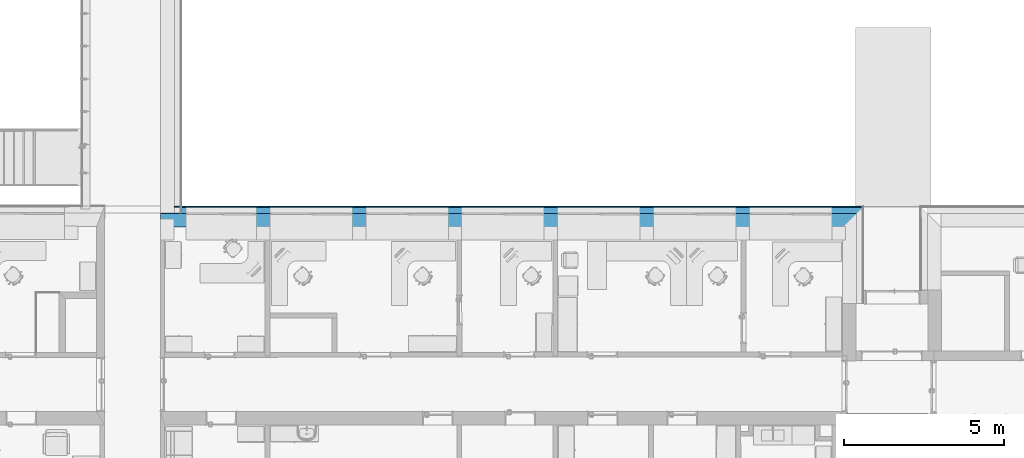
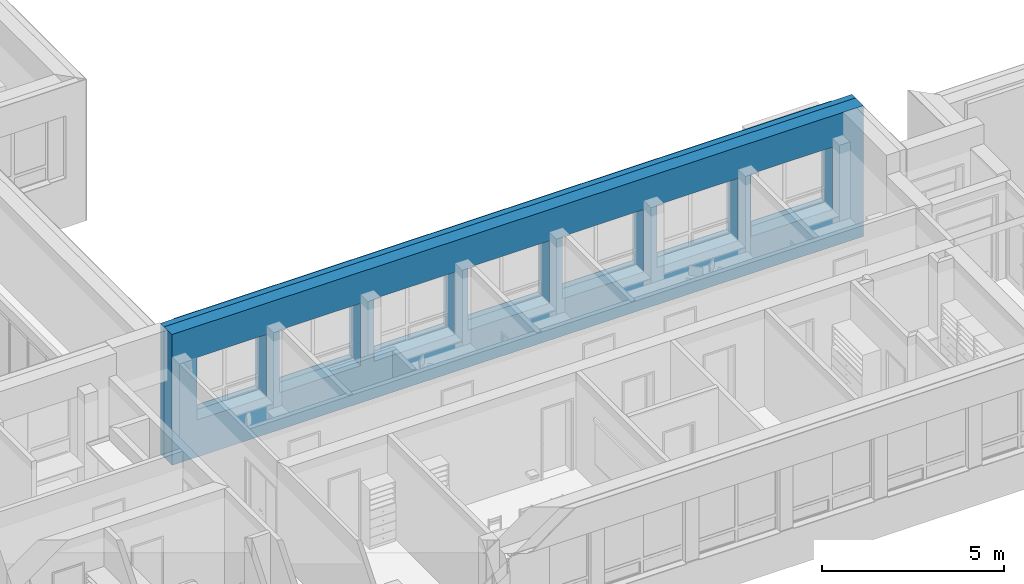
# One storey, part 93 of 194: 3 building element parts, 7 openings, 1 element without a shape of its own.
"""IFC2X3 building model written with IfcOpenShell, lengths in millimetres."""

from ifc_helpers import new_model, entity, si_unit, converted_unit, derived_unit, money_unit, direction, frame, origin_with_axes, origin_2d_with_axis, place, context, subcontext, project, spatial, polyline, rectangle, outline, extrude, boolean, faceted_brep, material, type_object, element, aggregate, save


model = new_model("IFC2X3")

# Units and contexts
model_context = context("Model", 3, precision=1e-05, world=origin_with_axes(), true_north=direction((0.0, 1.0)))
body_context = subcontext(model_context, "Body", "Model", "MODEL_VIEW")
ifc_project = project(units=[si_unit("LENGTHUNIT", "METRE", prefix="MILLI"), si_unit("AREAUNIT", "SQUARE_METRE"), si_unit("VOLUMEUNIT", "CUBIC_METRE"), converted_unit("PLANEANGLEUNIT", "DEGREE", entity("IfcPlaneAngleMeasure", 0.0174532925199), si_unit("PLANEANGLEUNIT", "RADIAN"), dimensions=[0, 0, 0, 0, 0, 0, 0]), si_unit("SOLIDANGLEUNIT", "STERADIAN"), money_unit("EUR"), converted_unit("TIMEUNIT", "Year", entity("IfcTimeMeasure", 31556926.0), si_unit("TIMEUNIT", "SECOND"), dimensions=[0, 0, 1, 0, 0, 0, 0]), si_unit("MASSUNIT", "GRAM", prefix="KILO"), si_unit("THERMODYNAMICTEMPERATUREUNIT", "DEGREE_CELSIUS"), si_unit("LUMINOUSINTENSITYUNIT", "LUMEN"), si_unit("ENERGYUNIT", "JOULE", prefix="MEGA"), derived_unit("THERMALCONDUCTANCEUNIT", [(si_unit("POWERUNIT", "WATT"), 1), (si_unit("LENGTHUNIT", "METRE"), -1), (si_unit("THERMODYNAMICTEMPERATUREUNIT", "KELVIN"), -1)]), derived_unit("SPECIFICHEATCAPACITYUNIT", [(si_unit("ENERGYUNIT", "JOULE"), 1), (si_unit("MASSUNIT", "GRAM", prefix="KILO"), -1), (si_unit("THERMODYNAMICTEMPERATUREUNIT", "KELVIN"), -1)]), derived_unit("MASSDENSITYUNIT", [(si_unit("MASSUNIT", "GRAM", prefix="KILO"), 1), (si_unit("VOLUMEUNIT", "CUBIC_METRE"), -1)])], contexts=[model_context])

# Site, building, storey
site_placement = place(None, origin_with_axes())
site = spatial("IfcSite", under=ifc_project, at=site_placement, Name="Site", CompositionType="ELEMENT")
building_placement = place(site_placement, origin_with_axes())
building = spatial("IfcBuilding", under=site, at=building_placement, Name="Building", CompositionType="ELEMENT")
storey_placement = place(building_placement, frame((0.0, 0.0, 3000.0), z_axis=(0.0, 0.0, 1.0), x_axis=(1.0, 0.0, 0.0)))
storey = spatial("IfcBuildingStorey", under=building, at=storey_placement, Name="2 KORRUS", CompositionType="ELEMENT", Elevation=3000.0)

# Wall, openings, building element parts
wall_type = type_object("IfcWallType", Name="VS4", PredefinedType="NOTDEFINED")
wall_placement = place(storey_placement, frame((40164.293115, 47302.325893, -400.0), z_axis=(0.0, 0.0, 1.0), x_axis=(1.0, 0.0, 0.0)))
wall = element("IfcWall", 1, at=wall_placement, inside=storey, type_object=wall_type, Name="VS4")
opening_1_placement = place(wall_placement, frame((1468.95155742, 0.0, 1250.0), z_axis=(0.0, 0.0, 1.0), x_axis=(1.0, 0.0, 0.0)))
element("IfcOpeningElement", 2, at=opening_1_placement, cuts=wall, Name="välisaken * Double Window 22", context=body_context, shape_type="SweptSolid", body=[
    extrude(rectangle(XDim=2200.0, YDim=2100.0, at=origin_2d_with_axis()), frame((0.0, 19.9999999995, 1050.0), z_axis=(0.0, -1.0, 0.0), x_axis=(1.0, 0.0, 0.0)), (0.0, 0.0, 1.0), 1100.0),
    extrude(rectangle(XDim=2200.0, YDim=2100.0, at=origin_2d_with_axis()), frame((0.0, 19.9999999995, 1050.0), z_axis=(0.0, 1.0, 0.0), x_axis=(1.0, 0.0, 0.0)), (0.0, 0.0, 1.0), 850.0),
])
opening_2_placement = place(wall_placement, frame((4279.26923965, 0.0, 1250.0), z_axis=(0.0, 0.0, 1.0), x_axis=(1.0, 0.0, 0.0)))
element("IfcOpeningElement", 3, at=opening_2_placement, cuts=wall, Name="välisaken * Double Window 22", context=body_context, shape_type="SweptSolid", body=[
    extrude(rectangle(XDim=2580.0, YDim=2100.0, at=origin_2d_with_axis()), frame((0.0, 19.9999999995, 1050.0), z_axis=(0.0, -1.0, 0.0), x_axis=(1.0, 0.0, 0.0)), (0.0, 0.0, 1.0), 1100.0),
    extrude(rectangle(XDim=2580.0, YDim=2100.0, at=origin_2d_with_axis()), frame((0.0, 19.9999999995, 1050.0), z_axis=(0.0, 1.0, 0.0), x_axis=(1.0, 0.0, 0.0)), (0.0, 0.0, 1.0), 850.0),
])
opening_3_placement = place(wall_placement, frame((7280.54937321, 0.0, 1250.0), z_axis=(0.0, 0.0, 1.0), x_axis=(1.0, 0.0, 0.0)))
element("IfcOpeningElement", 4, at=opening_3_placement, cuts=wall, Name="välisaken * Double Window 22", context=body_context, shape_type="SweptSolid", body=[
    extrude(rectangle(XDim=2580.0, YDim=2100.0, at=origin_2d_with_axis()), frame((0.0, 19.9999999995, 1050.0), z_axis=(0.0, -1.0, 0.0), x_axis=(1.0, 0.0, 0.0)), (0.0, 0.0, 1.0), 1100.0),
    extrude(rectangle(XDim=2580.0, YDim=2100.0, at=origin_2d_with_axis()), frame((0.0, 19.9999999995, 1050.0), z_axis=(0.0, 1.0, 0.0), x_axis=(1.0, 0.0, 0.0)), (0.0, 0.0, 1.0), 850.0),
])
opening_4_placement = place(wall_placement, frame((10279.0781355, 0.0, 1250.0), z_axis=(0.0, 0.0, 1.0), x_axis=(1.0, 0.0, 0.0)))
element("IfcOpeningElement", 5, at=opening_4_placement, cuts=wall, Name="välisaken * Double Window 22", context=body_context, shape_type="SweptSolid", body=[
    extrude(rectangle(XDim=2580.0, YDim=2100.0, at=origin_2d_with_axis()), frame((0.0, 19.9999999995, 1050.0), z_axis=(0.0, -1.0, 0.0), x_axis=(1.0, 0.0, 0.0)), (0.0, 0.0, 1.0), 1100.0),
    extrude(rectangle(XDim=2580.0, YDim=2100.0, at=origin_2d_with_axis()), frame((0.0, 19.9999999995, 1050.0), z_axis=(0.0, 1.0, 0.0), x_axis=(1.0, 0.0, 0.0)), (0.0, 0.0, 1.0), 850.0),
])
opening_5_placement = place(wall_placement, frame((13279.9822136, 0.0, 1250.0), z_axis=(0.0, 0.0, 1.0), x_axis=(1.0, 0.0, 0.0)))
element("IfcOpeningElement", 6, at=opening_5_placement, cuts=wall, Name="välisaken * Double Window 22", context=body_context, shape_type="SweptSolid", body=[
    extrude(rectangle(XDim=2580.0, YDim=2100.0, at=origin_2d_with_axis()), frame((0.0, 19.9999999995, 1050.0), z_axis=(0.0, -1.0, 0.0), x_axis=(1.0, 0.0, 0.0)), (0.0, 0.0, 1.0), 1100.0),
    extrude(rectangle(XDim=2580.0, YDim=2100.0, at=origin_2d_with_axis()), frame((0.0, 19.9999999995, 1050.0), z_axis=(0.0, 1.0, 0.0), x_axis=(1.0, 0.0, 0.0)), (0.0, 0.0, 1.0), 850.0),
])
opening_6_placement = place(wall_placement, frame((16279.3230087, 0.0, 1250.0), z_axis=(0.0, 0.0, 1.0), x_axis=(1.0, 0.0, 0.0)))
element("IfcOpeningElement", 7, at=opening_6_placement, cuts=wall, Name="välisaken * Double Window 22", context=body_context, shape_type="SweptSolid", body=[
    extrude(rectangle(XDim=2580.0, YDim=2100.0, at=origin_2d_with_axis()), frame((0.0, 19.9999999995, 1050.0), z_axis=(0.0, -1.0, 0.0), x_axis=(1.0, 0.0, 0.0)), (0.0, 0.0, 1.0), 1100.0),
    extrude(rectangle(XDim=2580.0, YDim=2100.0, at=origin_2d_with_axis()), frame((0.0, 19.9999999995, 1050.0), z_axis=(0.0, 1.0, 0.0), x_axis=(1.0, 0.0, 0.0)), (0.0, 0.0, 1.0), 850.0),
])
opening_7_placement = place(wall_placement, frame((19279.30885, 0.0, 1250.0), z_axis=(0.0, 0.0, 1.0), x_axis=(1.0, 0.0, 0.0)))
element("IfcOpeningElement", 8, at=opening_7_placement, cuts=wall, Name="välisaken * Double Window 22", context=body_context, shape_type="SweptSolid", body=[
    extrude(rectangle(XDim=2580.0, YDim=2100.0, at=origin_2d_with_axis()), frame((0.0, 19.9999999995, 1050.0), z_axis=(0.0, -1.0, 0.0), x_axis=(1.0, 0.0, 0.0)), (0.0, 0.0, 1.0), 1100.0),
    extrude(rectangle(XDim=2580.0, YDim=2100.0, at=origin_2d_with_axis()), frame((0.0, 19.9999999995, 1050.0), z_axis=(0.0, 1.0, 0.0), x_axis=(1.0, 0.0, 0.0)), (0.0, 0.0, 1.0), 850.0),
])
ifc_material_1 = material(Name="Tellis - Konstuktsioon")
building_element_part_1_placement = place(wall_placement, origin_with_axes())
solid_1 = boolean("DIFFERENCE", boolean("DIFFERENCE", boolean("DIFFERENCE", boolean("DIFFERENCE", boolean("DIFFERENCE", boolean("DIFFERENCE", boolean("DIFFERENCE", boolean("DIFFERENCE", extrude(outline(polyline([(-430.019143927, -430.0), (21557.8767284, -430.0), (21557.8767284, 0.0), (-430.019143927, 0.0), (-430.019143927, -430.0)])), origin_with_axes(), (0.0, 0.0, 1.0), 4400.0), faceted_brep([(0.0, -430.0, 4400.0), (0.0, 0.0, 4400.0), (-430.019143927, 0.0, 4400.0), (-430.019143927, -430.0, 4400.0), (-0.00117215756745, 0.0, 3300.0), (0.0, -430.0, 3300.0), (-430.000001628, 0.0, 400.0), (-430.000001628, 0.0, 0.0), (-430.019143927, 0.0, 0.0), (-430.000001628, 0.0, 3300.0), (-430.019143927, -430.0, 0.0), (-429.962587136, -430.0, 0.0), (-429.962587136, -430.0, 3300.0)], [[[0, 1, 2, 3]], [[4, 1, 0, 5]], [[6, 7, 8, 2, 1, 4, 9]], [[2, 8, 10, 3]], [[5, 0, 3, 10, 11, 12]], [[9, 4, 5, 12]], [[12, 11, 7, 6, 9]], [[7, 11, 10, 8]]])), faceted_brep([(20907.8767284, 0.0, 0.0), (20907.8767284, 0.0, 4380.0), (21557.8767284, 0.0, 4380.0), (21557.8767284, 0.0, 0.0), (20907.8767284, -430.0, 0.0), (20907.8767284, -430.0, 4380.0), (21557.8767284, -430.0, 4380.0), (21557.8767284, -430.0, 0.0)], [[[0, 1, 2, 3]], [[1, 0, 4, 5]], [[6, 2, 1, 5]], [[2, 6, 7, 3]], [[4, 0, 3, 7]], [[5, 4, 7, 6]]])), faceted_brep([(-0.00117215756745, 0.0, 3300.0), (0.0, 0.0, 4400.0), (-430.019143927, 0.0, 4400.0), (-430.019143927, 0.0, 0.0), (116.946071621, 0.0, 0.0), (116.946071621, 0.0, 400.0), (-430.000001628, 0.0, 400.0), (-430.000001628, 0.0, 3300.0), (0.0, 200.0, 3300.0), (0.0, 200.0, 4400.0), (-0.00121006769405, 13.9071485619, 3300.0), (-430.019143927, 200.0, 4400.0), (-430.019143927, 200.0, 0.0), (116.676027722, 200.0, 0.0), (116.676027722, 200.0, 400.0), (-0.0174020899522, 200.0, 400.0), (-0.00121008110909, 13.9073026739, 400.0), (-430.001211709, 13.9073026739, 400.0), (-430.001211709, 13.9073026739, 3263.18136852), (-430.001211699, 13.9071932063, 3300.0), (-0.00121008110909, 13.9073026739, 3248.16543764)], [[[0, 1, 2, 3, 4, 5, 6, 7]], [[8, 9, 1, 0, 10]], [[1, 9, 11, 2]], [[11, 12, 3, 2]], [[13, 4, 3, 12]], [[5, 4, 13, 14]], [[6, 5, 14, 15, 16, 17]], [[7, 6, 17, 18, 19]], [[0, 7, 19, 10]], [[14, 13, 12, 11, 9, 8, 15]], [[8, 10, 20]], [[15, 20, 16]], [[20, 18, 17, 16]], [[18, 20, 10, 19]], [[15, 8, 20]]])), faceted_brep([(334.246117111, 200.0, 1280.0), (334.246117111, 200.0, 3380.0), (20935.7003129, 200.0, 3380.0), (20935.7003129, 200.0, 1280.0), (334.246117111, 90.86534167, 1280.0), (334.246117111, 90.86534167, 3380.0), (20935.7003129, 90.8653416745, 3380.0), (20935.7003129, 90.8653416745, 1280.0)], [[[0, 1, 2, 3]], [[1, 0, 4, 5]], [[2, 1, 5, 6]], [[3, 2, 6, 7]], [[0, 3, 7, 4]], [[4, 7, 6, 5]]])), faceted_brep([(20905.3938972, 200.0, 904.64568023), (21337.8767284, 200.0, 904.64568023), (21337.8767284, 200.0, 4380.0), (20907.8767284, 200.0, 4380.0), (20907.8767284, 200.0, 4400.0), (21557.8767284, 200.0, 4400.0), (21557.8767284, 200.0, 0.0), (20905.3938972, 200.0, 0.0), (21337.8767284, 0.0, 904.64568023), (20905.3938972, 0.0, 904.64568023), (21337.8767284, 0.0, 4380.0), (20907.8767284, 0.0, 4380.0), (20907.8767284, 0.0, 4400.0), (21557.8767284, 0.0, 4400.0), (21557.8767284, 0.0, 0.0), (20905.3938972, 0.0, 0.0)], [[[0, 1, 2, 3, 4, 5, 6, 7]], [[8, 1, 0, 9]], [[2, 1, 8, 10]], [[10, 11, 3, 2]], [[12, 4, 3, 11]], [[4, 12, 13, 5]], [[13, 14, 6, 5]], [[15, 7, 6, 14]], [[7, 15, 9, 0]], [[9, 15, 14, 13, 12, 11, 10, 8]]])), faceted_brep([(0.0, 220.0, 4400.0), (0.0, 220.0, 3300.0), (199.980858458, 220.0, 3300.0), (199.980858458, 219.999999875, 0.0), (-430.019143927, 220.0, 0.0), (-430.019143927, 220.0, 4400.0), (0.0, 200.0, 4400.0), (0.0, 200.0, 3300.0), (199.982598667, 200.0, 3300.0), (199.982598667, 200.0, 0.0), (-430.019143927, 200.0, 0.0), (-430.019143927, 200.0, 4400.0)], [[[0, 1, 2, 3, 4, 5]], [[1, 0, 6, 7]], [[2, 1, 7, 8]], [[3, 2, 8, 9]], [[3, 9, 10, 4]], [[5, 4, 10, 11]], [[6, 0, 5, 11]], [[7, 6, 11, 10, 9, 8]]])), faceted_brep([(334.246117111, 200.0, 1280.0), (20935.7003129, 200.0, 1280.0), (20935.7003129, 200.0, 3380.0), (334.246117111, 200.0, 3380.0), (334.246117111, 219.999967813, 1280.0), (20935.7003129, 219.999967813, 1280.0), (20935.7003129, 219.999967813, 3380.0), (334.246117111, 219.999967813, 3380.0)], [[[0, 1, 2, 3]], [[4, 5, 1, 0]], [[5, 6, 2, 1]], [[6, 7, 3, 2]], [[7, 4, 0, 3]], [[4, 7, 6, 5]]])), faceted_brep([(20905.3938972, 219.999968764, 0.0), (20905.3938972, 220.0, 904.64568023), (21405.3938972, 220.0, 904.64568023), (21405.3938972, 219.999968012, 0.0), (20905.3938972, 200.0, 0.0), (20905.3938972, 200.0, 904.64568023), (21405.3938972, 200.0, 904.64568023), (21405.3938972, 200.0, 0.0)], [[[0, 1, 2, 3]], [[1, 0, 4, 5]], [[2, 1, 5, 6]], [[3, 2, 6, 7]], [[4, 0, 3, 7]], [[5, 4, 7, 6]]]))
building_element_part_1 = element("IfcBuildingElementPart", 9, at=building_element_part_1_placement, material=ifc_material_1, Name="Tellis - Konstuktsioon", context=body_context, shape_type="CSG", body=[
    boolean("DIFFERENCE", solid_1, faceted_brep([(20907.8767284, 220.0, 4380.0), (20907.8767284, 220.0, 4400.0), (21557.8767284, 220.0, 4400.0), (21557.8767284, 220.0, 0.0), (21537.8767284, 219.999967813, 0.0), (21537.8767284, 219.999967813, 4380.0), (20907.8767284, 200.0, 4400.0), (20907.8767284, 200.0, 4380.0), (21557.8767284, 200.0, 4400.0), (21557.8767284, 200.0, 0.0), (21537.8767284, 200.0, 0.0), (21537.8767284, 200.0, 4380.0)], [[[0, 1, 2, 3, 4, 5]], [[6, 1, 0, 7]], [[1, 6, 8, 2]], [[8, 9, 3, 2]], [[10, 4, 3, 9]], [[5, 4, 10, 11]], [[0, 5, 11, 7]], [[11, 10, 9, 8, 6, 7]]])),
])
ifc_material_2 = material(Name="Soojustus - Plastik Kõva")
building_element_part_2_placement = place(wall_placement, origin_with_axes())
solid_2 = boolean("DIFFERENCE", boolean("DIFFERENCE", boolean("DIFFERENCE", boolean("DIFFERENCE", boolean("DIFFERENCE", boolean("DIFFERENCE", boolean("DIFFERENCE", boolean("DIFFERENCE", extrude(outline(polyline([(-430.019143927, 0.0), (21557.8767284, 0.0), (21557.8767284, 200.0), (-430.019143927, 200.0), (-430.019143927, 0.0)])), origin_with_axes(), (0.0, 0.0, 1.0), 4400.0), faceted_brep([(0.0, -430.0, 4400.0), (0.0, 0.0, 4400.0), (-430.019143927, 0.0, 4400.0), (-430.019143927, -430.0, 4400.0), (-0.00117215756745, 0.0, 3300.0), (0.0, -430.0, 3300.0), (-430.000001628, 0.0, 400.0), (-430.000001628, 0.0, 0.0), (-430.019143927, 0.0, 0.0), (-430.000001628, 0.0, 3300.0), (-430.019143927, -430.0, 0.0), (-429.962587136, -430.0, 0.0), (-429.962587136, -430.0, 3300.0)], [[[0, 1, 2, 3]], [[4, 1, 0, 5]], [[6, 7, 8, 2, 1, 4, 9]], [[2, 8, 10, 3]], [[5, 0, 3, 10, 11, 12]], [[9, 4, 5, 12]], [[12, 11, 7, 6, 9]], [[7, 11, 10, 8]]])), faceted_brep([(20907.8767284, 0.0, 0.0), (20907.8767284, 0.0, 4380.0), (21557.8767284, 0.0, 4380.0), (21557.8767284, 0.0, 0.0), (20907.8767284, -430.0, 0.0), (20907.8767284, -430.0, 4380.0), (21557.8767284, -430.0, 4380.0), (21557.8767284, -430.0, 0.0)], [[[0, 1, 2, 3]], [[1, 0, 4, 5]], [[6, 2, 1, 5]], [[2, 6, 7, 3]], [[4, 0, 3, 7]], [[5, 4, 7, 6]]])), faceted_brep([(-0.00117215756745, 0.0, 3300.0), (0.0, 0.0, 4400.0), (-430.019143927, 0.0, 4400.0), (-430.019143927, 0.0, 0.0), (116.946071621, 0.0, 0.0), (116.946071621, 0.0, 400.0), (-430.000001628, 0.0, 400.0), (-430.000001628, 0.0, 3300.0), (0.0, 200.0, 3300.0), (0.0, 200.0, 4400.0), (-0.00121006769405, 13.9071485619, 3300.0), (-430.019143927, 200.0, 4400.0), (-430.019143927, 200.0, 0.0), (116.676027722, 200.0, 0.0), (116.676027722, 200.0, 400.0), (-0.0174020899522, 200.0, 400.0), (-0.00121008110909, 13.9073026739, 400.0), (-430.001211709, 13.9073026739, 400.0), (-430.001211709, 13.9073026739, 3263.18136852), (-430.001211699, 13.9071932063, 3300.0), (-0.00121008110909, 13.9073026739, 3248.16543764)], [[[0, 1, 2, 3, 4, 5, 6, 7]], [[8, 9, 1, 0, 10]], [[1, 9, 11, 2]], [[11, 12, 3, 2]], [[13, 4, 3, 12]], [[5, 4, 13, 14]], [[6, 5, 14, 15, 16, 17]], [[7, 6, 17, 18, 19]], [[0, 7, 19, 10]], [[14, 13, 12, 11, 9, 8, 15]], [[8, 10, 20]], [[15, 20, 16]], [[20, 18, 17, 16]], [[18, 20, 10, 19]], [[15, 8, 20]]])), faceted_brep([(334.246117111, 200.0, 1280.0), (334.246117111, 200.0, 3380.0), (20935.7003129, 200.0, 3380.0), (20935.7003129, 200.0, 1280.0), (334.246117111, 90.86534167, 1280.0), (334.246117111, 90.86534167, 3380.0), (20935.7003129, 90.8653416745, 3380.0), (20935.7003129, 90.8653416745, 1280.0)], [[[0, 1, 2, 3]], [[1, 0, 4, 5]], [[2, 1, 5, 6]], [[3, 2, 6, 7]], [[0, 3, 7, 4]], [[4, 7, 6, 5]]])), faceted_brep([(20905.3938972, 200.0, 904.64568023), (21337.8767284, 200.0, 904.64568023), (21337.8767284, 200.0, 4380.0), (20907.8767284, 200.0, 4380.0), (20907.8767284, 200.0, 4400.0), (21557.8767284, 200.0, 4400.0), (21557.8767284, 200.0, 0.0), (20905.3938972, 200.0, 0.0), (21337.8767284, 0.0, 904.64568023), (20905.3938972, 0.0, 904.64568023), (21337.8767284, 0.0, 4380.0), (20907.8767284, 0.0, 4380.0), (20907.8767284, 0.0, 4400.0), (21557.8767284, 0.0, 4400.0), (21557.8767284, 0.0, 0.0), (20905.3938972, 0.0, 0.0)], [[[0, 1, 2, 3, 4, 5, 6, 7]], [[8, 1, 0, 9]], [[2, 1, 8, 10]], [[10, 11, 3, 2]], [[12, 4, 3, 11]], [[4, 12, 13, 5]], [[13, 14, 6, 5]], [[15, 7, 6, 14]], [[7, 15, 9, 0]], [[9, 15, 14, 13, 12, 11, 10, 8]]])), faceted_brep([(0.0, 220.0, 4400.0), (0.0, 220.0, 3300.0), (199.980858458, 220.0, 3300.0), (199.980858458, 219.999999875, 0.0), (-430.019143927, 220.0, 0.0), (-430.019143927, 220.0, 4400.0), (0.0, 200.0, 4400.0), (0.0, 200.0, 3300.0), (199.982598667, 200.0, 3300.0), (199.982598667, 200.0, 0.0), (-430.019143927, 200.0, 0.0), (-430.019143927, 200.0, 4400.0)], [[[0, 1, 2, 3, 4, 5]], [[1, 0, 6, 7]], [[2, 1, 7, 8]], [[3, 2, 8, 9]], [[3, 9, 10, 4]], [[5, 4, 10, 11]], [[6, 0, 5, 11]], [[7, 6, 11, 10, 9, 8]]])), faceted_brep([(334.246117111, 200.0, 1280.0), (20935.7003129, 200.0, 1280.0), (20935.7003129, 200.0, 3380.0), (334.246117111, 200.0, 3380.0), (334.246117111, 219.999967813, 1280.0), (20935.7003129, 219.999967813, 1280.0), (20935.7003129, 219.999967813, 3380.0), (334.246117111, 219.999967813, 3380.0)], [[[0, 1, 2, 3]], [[4, 5, 1, 0]], [[5, 6, 2, 1]], [[6, 7, 3, 2]], [[7, 4, 0, 3]], [[4, 7, 6, 5]]])), faceted_brep([(20905.3938972, 219.999968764, 0.0), (20905.3938972, 220.0, 904.64568023), (21405.3938972, 220.0, 904.64568023), (21405.3938972, 219.999968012, 0.0), (20905.3938972, 200.0, 0.0), (20905.3938972, 200.0, 904.64568023), (21405.3938972, 200.0, 904.64568023), (21405.3938972, 200.0, 0.0)], [[[0, 1, 2, 3]], [[1, 0, 4, 5]], [[2, 1, 5, 6]], [[3, 2, 6, 7]], [[4, 0, 3, 7]], [[5, 4, 7, 6]]]))
building_element_part_2 = element("IfcBuildingElementPart", 10, at=building_element_part_2_placement, material=ifc_material_2, Name="Soojustus - Plastik Kõva", context=body_context, shape_type="CSG", body=[
    boolean("DIFFERENCE", solid_2, faceted_brep([(20907.8767284, 220.0, 4380.0), (20907.8767284, 220.0, 4400.0), (21557.8767284, 220.0, 4400.0), (21557.8767284, 220.0, 0.0), (21537.8767284, 219.999967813, 0.0), (21537.8767284, 219.999967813, 4380.0), (20907.8767284, 200.0, 4400.0), (20907.8767284, 200.0, 4380.0), (21557.8767284, 200.0, 4400.0), (21557.8767284, 200.0, 0.0), (21537.8767284, 200.0, 0.0), (21537.8767284, 200.0, 4380.0)], [[[0, 1, 2, 3, 4, 5]], [[6, 1, 0, 7]], [[1, 6, 8, 2]], [[8, 9, 3, 2]], [[10, 4, 3, 9]], [[5, 4, 10, 11]], [[0, 5, 11, 7]], [[11, 10, 9, 8, 6, 7]]])),
])
ifc_material_3 = material(Name="Tellis - Viimistlus")
building_element_part_3_placement = place(wall_placement, origin_with_axes())
solid_3 = boolean("DIFFERENCE", boolean("DIFFERENCE", boolean("DIFFERENCE", boolean("DIFFERENCE", boolean("DIFFERENCE", boolean("DIFFERENCE", boolean("DIFFERENCE", boolean("DIFFERENCE", extrude(outline(polyline([(-430.019143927, 200.0), (21557.8767284, 200.0), (21557.8767284, 220.0), (-430.019143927, 220.0), (-430.019143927, 200.0)])), origin_with_axes(), (0.0, 0.0, 1.0), 4400.0), faceted_brep([(0.0, -430.0, 4400.0), (0.0, 0.0, 4400.0), (-430.019143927, 0.0, 4400.0), (-430.019143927, -430.0, 4400.0), (-0.00117215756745, 0.0, 3300.0), (0.0, -430.0, 3300.0), (-430.000001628, 0.0, 400.0), (-430.000001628, 0.0, 0.0), (-430.019143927, 0.0, 0.0), (-430.000001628, 0.0, 3300.0), (-430.019143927, -430.0, 0.0), (-429.962587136, -430.0, 0.0), (-429.962587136, -430.0, 3300.0)], [[[0, 1, 2, 3]], [[4, 1, 0, 5]], [[6, 7, 8, 2, 1, 4, 9]], [[2, 8, 10, 3]], [[5, 0, 3, 10, 11, 12]], [[9, 4, 5, 12]], [[12, 11, 7, 6, 9]], [[7, 11, 10, 8]]])), faceted_brep([(20907.8767284, 0.0, 0.0), (20907.8767284, 0.0, 4380.0), (21557.8767284, 0.0, 4380.0), (21557.8767284, 0.0, 0.0), (20907.8767284, -430.0, 0.0), (20907.8767284, -430.0, 4380.0), (21557.8767284, -430.0, 4380.0), (21557.8767284, -430.0, 0.0)], [[[0, 1, 2, 3]], [[1, 0, 4, 5]], [[6, 2, 1, 5]], [[2, 6, 7, 3]], [[4, 0, 3, 7]], [[5, 4, 7, 6]]])), faceted_brep([(-0.00117215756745, 0.0, 3300.0), (0.0, 0.0, 4400.0), (-430.019143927, 0.0, 4400.0), (-430.019143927, 0.0, 0.0), (116.946071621, 0.0, 0.0), (116.946071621, 0.0, 400.0), (-430.000001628, 0.0, 400.0), (-430.000001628, 0.0, 3300.0), (0.0, 200.0, 3300.0), (0.0, 200.0, 4400.0), (-0.00121006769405, 13.9071485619, 3300.0), (-430.019143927, 200.0, 4400.0), (-430.019143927, 200.0, 0.0), (116.676027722, 200.0, 0.0), (116.676027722, 200.0, 400.0), (-0.0174020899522, 200.0, 400.0), (-0.00121008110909, 13.9073026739, 400.0), (-430.001211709, 13.9073026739, 400.0), (-430.001211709, 13.9073026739, 3263.18136852), (-430.001211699, 13.9071932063, 3300.0), (-0.00121008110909, 13.9073026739, 3248.16543764)], [[[0, 1, 2, 3, 4, 5, 6, 7]], [[8, 9, 1, 0, 10]], [[1, 9, 11, 2]], [[11, 12, 3, 2]], [[13, 4, 3, 12]], [[5, 4, 13, 14]], [[6, 5, 14, 15, 16, 17]], [[7, 6, 17, 18, 19]], [[0, 7, 19, 10]], [[14, 13, 12, 11, 9, 8, 15]], [[8, 10, 20]], [[15, 20, 16]], [[20, 18, 17, 16]], [[18, 20, 10, 19]], [[15, 8, 20]]])), faceted_brep([(334.246117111, 200.0, 1280.0), (334.246117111, 200.0, 3380.0), (20935.7003129, 200.0, 3380.0), (20935.7003129, 200.0, 1280.0), (334.246117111, 90.86534167, 1280.0), (334.246117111, 90.86534167, 3380.0), (20935.7003129, 90.8653416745, 3380.0), (20935.7003129, 90.8653416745, 1280.0)], [[[0, 1, 2, 3]], [[1, 0, 4, 5]], [[2, 1, 5, 6]], [[3, 2, 6, 7]], [[0, 3, 7, 4]], [[4, 7, 6, 5]]])), faceted_brep([(20905.3938972, 200.0, 904.64568023), (21337.8767284, 200.0, 904.64568023), (21337.8767284, 200.0, 4380.0), (20907.8767284, 200.0, 4380.0), (20907.8767284, 200.0, 4400.0), (21557.8767284, 200.0, 4400.0), (21557.8767284, 200.0, 0.0), (20905.3938972, 200.0, 0.0), (21337.8767284, 0.0, 904.64568023), (20905.3938972, 0.0, 904.64568023), (21337.8767284, 0.0, 4380.0), (20907.8767284, 0.0, 4380.0), (20907.8767284, 0.0, 4400.0), (21557.8767284, 0.0, 4400.0), (21557.8767284, 0.0, 0.0), (20905.3938972, 0.0, 0.0)], [[[0, 1, 2, 3, 4, 5, 6, 7]], [[8, 1, 0, 9]], [[2, 1, 8, 10]], [[10, 11, 3, 2]], [[12, 4, 3, 11]], [[4, 12, 13, 5]], [[13, 14, 6, 5]], [[15, 7, 6, 14]], [[7, 15, 9, 0]], [[9, 15, 14, 13, 12, 11, 10, 8]]])), faceted_brep([(0.0, 220.0, 4400.0), (0.0, 220.0, 3300.0), (199.980858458, 220.0, 3300.0), (199.980858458, 219.999999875, 0.0), (-430.019143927, 220.0, 0.0), (-430.019143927, 220.0, 4400.0), (0.0, 200.0, 4400.0), (0.0, 200.0, 3300.0), (199.982598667, 200.0, 3300.0), (199.982598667, 200.0, 0.0), (-430.019143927, 200.0, 0.0), (-430.019143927, 200.0, 4400.0)], [[[0, 1, 2, 3, 4, 5]], [[1, 0, 6, 7]], [[2, 1, 7, 8]], [[3, 2, 8, 9]], [[3, 9, 10, 4]], [[5, 4, 10, 11]], [[6, 0, 5, 11]], [[7, 6, 11, 10, 9, 8]]])), faceted_brep([(334.246117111, 200.0, 1280.0), (20935.7003129, 200.0, 1280.0), (20935.7003129, 200.0, 3380.0), (334.246117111, 200.0, 3380.0), (334.246117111, 219.999967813, 1280.0), (20935.7003129, 219.999967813, 1280.0), (20935.7003129, 219.999967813, 3380.0), (334.246117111, 219.999967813, 3380.0)], [[[0, 1, 2, 3]], [[4, 5, 1, 0]], [[5, 6, 2, 1]], [[6, 7, 3, 2]], [[7, 4, 0, 3]], [[4, 7, 6, 5]]])), faceted_brep([(20905.3938972, 219.999968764, 0.0), (20905.3938972, 220.0, 904.64568023), (21405.3938972, 220.0, 904.64568023), (21405.3938972, 219.999968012, 0.0), (20905.3938972, 200.0, 0.0), (20905.3938972, 200.0, 904.64568023), (21405.3938972, 200.0, 904.64568023), (21405.3938972, 200.0, 0.0)], [[[0, 1, 2, 3]], [[1, 0, 4, 5]], [[2, 1, 5, 6]], [[3, 2, 6, 7]], [[4, 0, 3, 7]], [[5, 4, 7, 6]]]))
building_element_part_3 = element("IfcBuildingElementPart", 11, at=building_element_part_3_placement, material=ifc_material_3, Name="Tellis - Viimistlus", context=body_context, shape_type="CSG", body=[
    boolean("DIFFERENCE", solid_3, faceted_brep([(20907.8767284, 220.0, 4380.0), (20907.8767284, 220.0, 4400.0), (21557.8767284, 220.0, 4400.0), (21557.8767284, 220.0, 0.0), (21537.8767284, 219.999967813, 0.0), (21537.8767284, 219.999967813, 4380.0), (20907.8767284, 200.0, 4400.0), (20907.8767284, 200.0, 4380.0), (21557.8767284, 200.0, 4400.0), (21557.8767284, 200.0, 0.0), (21537.8767284, 200.0, 0.0), (21537.8767284, 200.0, 4380.0)], [[[0, 1, 2, 3, 4, 5]], [[6, 1, 0, 7]], [[1, 6, 8, 2]], [[8, 9, 3, 2]], [[10, 4, 3, 9]], [[5, 4, 10, 11]], [[0, 5, 11, 7]], [[11, 10, 9, 8, 6, 7]]])),
])
aggregate(wall, [building_element_part_1, building_element_part_2, building_element_part_3])

save(model, "model.ifc")
